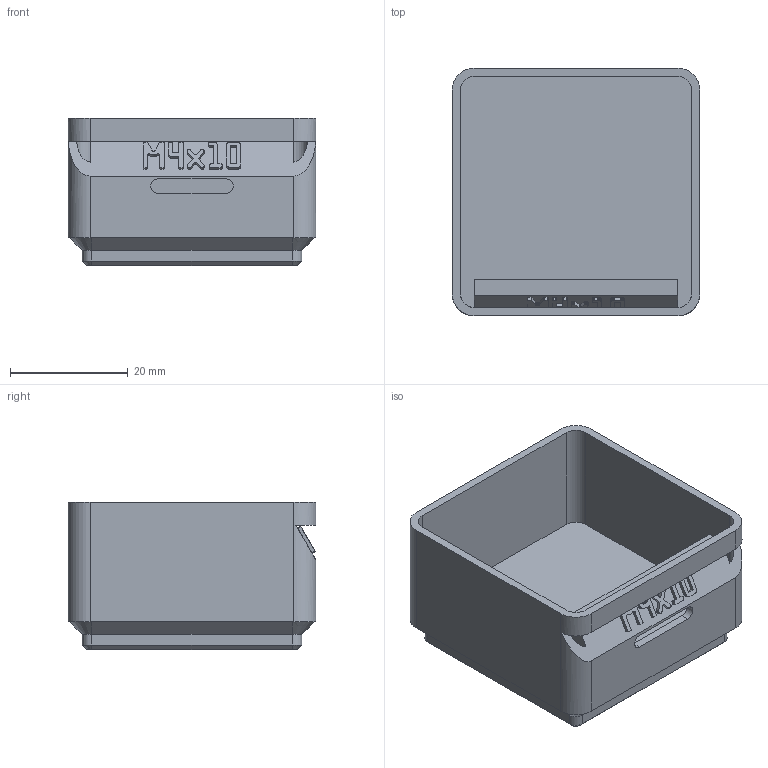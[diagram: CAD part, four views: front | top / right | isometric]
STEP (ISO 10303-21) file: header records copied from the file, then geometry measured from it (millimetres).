
FILE_DESCRIPTION(('Open CASCADE Model'),'2;1');
FILE_NAME('Open CASCADE Shape Model','2026-11-03T17:13:47',('Author'),( 'Open CASCADE'),'Open CASCADE STEP processor 8.0','build123d', 'Unknown');
FILE_SCHEMA(('AUTOMOTIVE_DESIGN { 1 0 10303 214 1 1 1 1 }'));
Length unit declared in the file: millimetre
Products named in the file (1): COMPOUND
Bounding box: 42 x 42 x 25 mm (x, y, z)
Volume: 13725.9 mm3; surface area: 10540.5 mm2
Topology: 1 solids, 1 shells, 472 faces, 1374 edges, 910 vertices
Faces by surface type: plane 450, cylinder 14, cone 8
Entity records: 32282 total; most frequent: CARTESIAN_POINT 6509, DIRECTION 4176, LINE 3114, VECTOR 3114, ORIENTED_EDGE 2748, PCURVE 2748, DEFINITIONAL_REPRESENTATION 2748, EDGE_CURVE 1374
